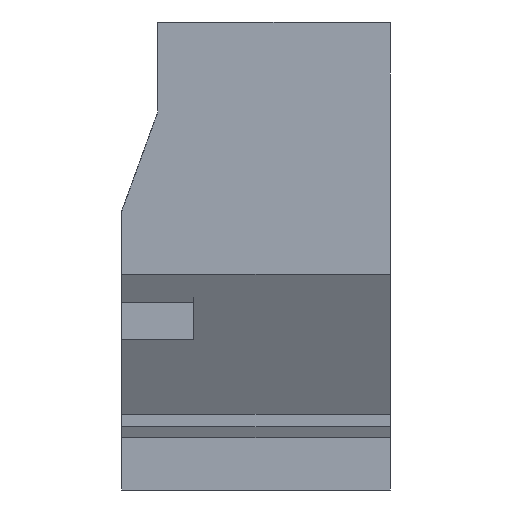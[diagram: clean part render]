
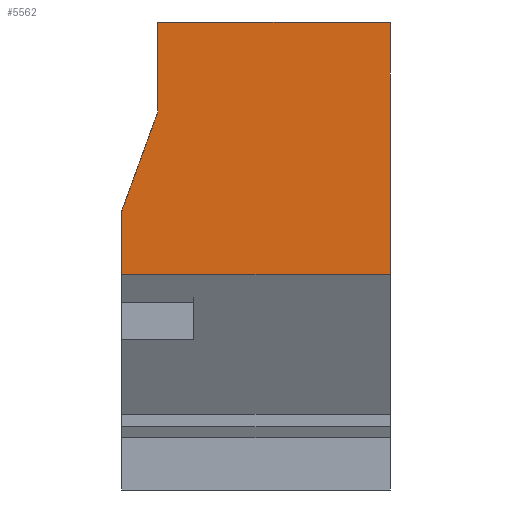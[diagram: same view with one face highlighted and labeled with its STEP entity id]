
A CAD part, front view. The second image highlights one B-rep face of the part: STEP entity #5562.
In plain terms, the highlighted planar face has unit normal (0, -1, 0).
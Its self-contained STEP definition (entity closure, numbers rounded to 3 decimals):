
#32 = PLANE('',#33);
#33 = AXIS2_PLACEMENT_3D('',#34,#35,#36);
#34 = CARTESIAN_POINT('',(15.,-190.,-0.1));
#35 = DIRECTION('',(1.,0.,-0.));
#36 = DIRECTION('',(0.,0.,1.));
#107 = VERTEX_POINT('',#108);
#108 = CARTESIAN_POINT('',(15.,-180.5,26.));
#121 = PLANE('',#122);
#122 = AXIS2_PLACEMENT_3D('',#123,#124,#125);
#123 = CARTESIAN_POINT('',(0.,-3.198,26.));
#124 = DIRECTION('',(0.,0.,1.));
#125 = DIRECTION('',(1.,0.,-0.));
#132 = EDGE_CURVE('',#133,#107,#135,.T.);
#133 = VERTEX_POINT('',#134);
#134 = CARTESIAN_POINT('',(15.,-180.5,12.));
#135 = SURFACE_CURVE('',#136,(#140,#146),.PCURVE_S1.);
#136 = LINE('',#137,#138);
#137 = CARTESIAN_POINT('',(15.,-180.5,5.95));
#138 = VECTOR('',#139,1.);
#139 = DIRECTION('',(0.,-0.,1.));
#140 = PCURVE('',#32,#141);
#141 = DEFINITIONAL_REPRESENTATION('',(#142),#145);
#142 = B_SPLINE_CURVE_WITH_KNOTS('',1,(#143,#144),.UNSPECIFIED.,.F.,.F.,
  (2,2),(6.05,20.05),.PIECEWISE_BEZIER_KNOTS.);
#143 = CARTESIAN_POINT('',(12.1,-9.5));
#144 = CARTESIAN_POINT('',(26.1,-9.5));
#145 = ( GEOMETRIC_REPRESENTATION_CONTEXT(2) 
PARAMETRIC_REPRESENTATION_CONTEXT() REPRESENTATION_CONTEXT('2D SPACE',''
  ) );
#146 = PCURVE('',#147,#152);
#147 = PLANE('',#148);
#148 = AXIS2_PLACEMENT_3D('',#149,#150,#151);
#149 = CARTESIAN_POINT('',(-196.5,-180.5,12.));
#150 = DIRECTION('',(0.,1.,0.));
#151 = DIRECTION('',(1.,0.,0.));
#152 = DEFINITIONAL_REPRESENTATION('',(#153),#156);
#153 = B_SPLINE_CURVE_WITH_KNOTS('',1,(#154,#155),.UNSPECIFIED.,.F.,.F.,
  (2,2),(6.05,20.05),.PIECEWISE_BEZIER_KNOTS.);
#154 = CARTESIAN_POINT('',(211.5,0.));
#155 = CARTESIAN_POINT('',(211.5,-14.));
#156 = ( GEOMETRIC_REPRESENTATION_CONTEXT(2) 
PARAMETRIC_REPRESENTATION_CONTEXT() REPRESENTATION_CONTEXT('2D SPACE',''
  ) );
#184 = B_SPLINE_SURFACE_WITH_KNOTS('',1,1,(
    (#185,#186)
    ,(#187,#188
    )),.UNSPECIFIED.,.F.,.F.,.F.,(2,2),(2,2),(0.,393.),(0.,1.),
  .PIECEWISE_BEZIER_KNOTS.);
#185 = CARTESIAN_POINT('',(-192.,-176.,4.2));
#186 = CARTESIAN_POINT('',(-196.5,-180.5,12.));
#187 = CARTESIAN_POINT('',(192.,-176.,4.2));
#188 = CARTESIAN_POINT('',(196.5,-180.5,12.));
#5424 = EDGE_CURVE('',#5425,#133,#5427,.T.);
#5425 = VERTEX_POINT('',#5426);
#5426 = CARTESIAN_POINT('',(0.1,-180.5,12.));
#5427 = SURFACE_CURVE('',#5428,(#5432,#5439),.PCURVE_S1.);
#5428 = LINE('',#5429,#5430);
#5429 = CARTESIAN_POINT('',(-196.5,-180.5,12.));
#5430 = VECTOR('',#5431,1.);
#5431 = DIRECTION('',(1.,0.,0.));
#5432 = PCURVE('',#184,#5433);
#5433 = DEFINITIONAL_REPRESENTATION('',(#5434),#5438);
#5434 = LINE('',#5435,#5436);
#5435 = CARTESIAN_POINT('',(0.,1.));
#5436 = VECTOR('',#5437,1.);
#5437 = DIRECTION('',(1.,0.));
#5438 = ( GEOMETRIC_REPRESENTATION_CONTEXT(2) 
PARAMETRIC_REPRESENTATION_CONTEXT() REPRESENTATION_CONTEXT('2D SPACE',''
  ) );
#5439 = PCURVE('',#147,#5440);
#5440 = DEFINITIONAL_REPRESENTATION('',(#5441),#5445);
#5441 = LINE('',#5442,#5443);
#5442 = CARTESIAN_POINT('',(0.,0.));
#5443 = VECTOR('',#5444,1.);
#5444 = DIRECTION('',(1.,0.));
#5445 = ( GEOMETRIC_REPRESENTATION_CONTEXT(2) 
PARAMETRIC_REPRESENTATION_CONTEXT() REPRESENTATION_CONTEXT('2D SPACE',''
  ) );
#5467 = PLANE('',#5468);
#5468 = AXIS2_PLACEMENT_3D('',#5469,#5470,#5471);
#5469 = CARTESIAN_POINT('',(0.1,-179.6,8.));
#5470 = DIRECTION('',(-1.,0.,0.));
#5471 = DIRECTION('',(0.,-1.,0.));
#5562 = ADVANCED_FACE('',(#5563),#147,.F.);
#5563 = FACE_BOUND('',#5564,.F.);
#5564 = EDGE_LOOP('',(#5565,#5593,#5619,#5640,#5641,#5642));
#5565 = ORIENTED_EDGE('',*,*,#5566,.T.);
#5566 = EDGE_CURVE('',#5567,#5569,#5571,.T.);
#5567 = VERTEX_POINT('',#5568);
#5568 = CARTESIAN_POINT('',(0.1,-180.5,15.5));
#5569 = VERTEX_POINT('',#5570);
#5570 = CARTESIAN_POINT('',(2.1,-180.5,21.));
#5571 = SURFACE_CURVE('',#5572,(#5576,#5582),.PCURVE_S1.);
#5572 = LINE('',#5573,#5574);
#5573 = CARTESIAN_POINT('',(-10.942,-180.5,-14.866));
#5574 = VECTOR('',#5575,1.);
#5575 = DIRECTION('',(0.342,-0.,0.94));
#5576 = PCURVE('',#147,#5577);
#5577 = DEFINITIONAL_REPRESENTATION('',(#5578),#5581);
#5578 = B_SPLINE_CURVE_WITH_KNOTS('',1,(#5579,#5580),.UNSPECIFIED.,.F.,
  .F.,(2,2),(32.312,38.164),.PIECEWISE_BEZIER_KNOTS.);
#5579 = CARTESIAN_POINT('',(196.6,-3.5));
#5580 = CARTESIAN_POINT('',(198.6,-9.));
#5581 = ( GEOMETRIC_REPRESENTATION_CONTEXT(2) 
PARAMETRIC_REPRESENTATION_CONTEXT() REPRESENTATION_CONTEXT('2D SPACE',''
  ) );
#5582 = PCURVE('',#5583,#5588);
#5583 = PLANE('',#5584);
#5584 = AXIS2_PLACEMENT_3D('',#5585,#5586,#5587);
#5585 = CARTESIAN_POINT('',(2.1,-179.6,21.));
#5586 = DIRECTION('',(-0.94,0.,0.342));
#5587 = DIRECTION('',(0.,-1.,0.));
#5588 = DEFINITIONAL_REPRESENTATION('',(#5589),#5592);
#5589 = B_SPLINE_CURVE_WITH_KNOTS('',1,(#5590,#5591),.UNSPECIFIED.,.F.,
  .F.,(2,2),(32.312,38.164),.PIECEWISE_BEZIER_KNOTS.);
#5590 = CARTESIAN_POINT('',(0.9,-5.852));
#5591 = CARTESIAN_POINT('',(0.9,0.));
#5592 = ( GEOMETRIC_REPRESENTATION_CONTEXT(2) 
PARAMETRIC_REPRESENTATION_CONTEXT() REPRESENTATION_CONTEXT('2D SPACE',''
  ) );
#5593 = ORIENTED_EDGE('',*,*,#5594,.T.);
#5594 = EDGE_CURVE('',#5569,#5595,#5597,.T.);
#5595 = VERTEX_POINT('',#5596);
#5596 = CARTESIAN_POINT('',(2.1,-180.5,26.));
#5597 = SURFACE_CURVE('',#5598,(#5602,#5608),.PCURVE_S1.);
#5598 = LINE('',#5599,#5600);
#5599 = CARTESIAN_POINT('',(2.1,-180.5,25.));
#5600 = VECTOR('',#5601,1.);
#5601 = DIRECTION('',(0.,-0.,1.));
#5602 = PCURVE('',#147,#5603);
#5603 = DEFINITIONAL_REPRESENTATION('',(#5604),#5607);
#5604 = B_SPLINE_CURVE_WITH_KNOTS('',1,(#5605,#5606),.UNSPECIFIED.,.F.,
  .F.,(2,2),(-4.,1.),.PIECEWISE_BEZIER_KNOTS.);
#5605 = CARTESIAN_POINT('',(198.6,-9.));
#5606 = CARTESIAN_POINT('',(198.6,-14.));
#5607 = ( GEOMETRIC_REPRESENTATION_CONTEXT(2) 
PARAMETRIC_REPRESENTATION_CONTEXT() REPRESENTATION_CONTEXT('2D SPACE',''
  ) );
#5608 = PCURVE('',#5609,#5614);
#5609 = PLANE('',#5610);
#5610 = AXIS2_PLACEMENT_3D('',#5611,#5612,#5613);
#5611 = CARTESIAN_POINT('',(2.1,-179.6,38.));
#5612 = DIRECTION('',(-1.,0.,0.));
#5613 = DIRECTION('',(0.,-1.,0.));
#5614 = DEFINITIONAL_REPRESENTATION('',(#5615),#5618);
#5615 = B_SPLINE_CURVE_WITH_KNOTS('',1,(#5616,#5617),.UNSPECIFIED.,.F.,
  .F.,(2,2),(-4.,1.),.PIECEWISE_BEZIER_KNOTS.);
#5616 = CARTESIAN_POINT('',(0.9,-17.));
#5617 = CARTESIAN_POINT('',(0.9,-12.));
#5618 = ( GEOMETRIC_REPRESENTATION_CONTEXT(2) 
PARAMETRIC_REPRESENTATION_CONTEXT() REPRESENTATION_CONTEXT('2D SPACE',''
  ) );
#5619 = ORIENTED_EDGE('',*,*,#5620,.T.);
#5620 = EDGE_CURVE('',#5595,#107,#5621,.T.);
#5621 = SURFACE_CURVE('',#5622,(#5626,#5633),.PCURVE_S1.);
#5622 = LINE('',#5623,#5624);
#5623 = CARTESIAN_POINT('',(-196.5,-180.5,26.));
#5624 = VECTOR('',#5625,1.);
#5625 = DIRECTION('',(1.,0.,0.));
#5626 = PCURVE('',#147,#5627);
#5627 = DEFINITIONAL_REPRESENTATION('',(#5628),#5632);
#5628 = LINE('',#5629,#5630);
#5629 = CARTESIAN_POINT('',(0.,-14.));
#5630 = VECTOR('',#5631,1.);
#5631 = DIRECTION('',(1.,0.));
#5632 = ( GEOMETRIC_REPRESENTATION_CONTEXT(2) 
PARAMETRIC_REPRESENTATION_CONTEXT() REPRESENTATION_CONTEXT('2D SPACE',''
  ) );
#5633 = PCURVE('',#121,#5634);
#5634 = DEFINITIONAL_REPRESENTATION('',(#5635),#5639);
#5635 = LINE('',#5636,#5637);
#5636 = CARTESIAN_POINT('',(-196.5,-177.302));
#5637 = VECTOR('',#5638,1.);
#5638 = DIRECTION('',(1.,0.));
#5639 = ( GEOMETRIC_REPRESENTATION_CONTEXT(2) 
PARAMETRIC_REPRESENTATION_CONTEXT() REPRESENTATION_CONTEXT('2D SPACE',''
  ) );
#5640 = ORIENTED_EDGE('',*,*,#132,.F.);
#5641 = ORIENTED_EDGE('',*,*,#5424,.F.);
#5642 = ORIENTED_EDGE('',*,*,#5643,.T.);
#5643 = EDGE_CURVE('',#5425,#5567,#5644,.T.);
#5644 = SURFACE_CURVE('',#5645,(#5649,#5655),.PCURVE_S1.);
#5645 = LINE('',#5646,#5647);
#5646 = CARTESIAN_POINT('',(0.1,-180.5,10.));
#5647 = VECTOR('',#5648,1.);
#5648 = DIRECTION('',(0.,-0.,1.));
#5649 = PCURVE('',#147,#5650);
#5650 = DEFINITIONAL_REPRESENTATION('',(#5651),#5654);
#5651 = B_SPLINE_CURVE_WITH_KNOTS('',1,(#5652,#5653),.UNSPECIFIED.,.F.,
  .F.,(2,2),(2.,5.5),.PIECEWISE_BEZIER_KNOTS.);
#5652 = CARTESIAN_POINT('',(196.6,0.));
#5653 = CARTESIAN_POINT('',(196.6,-3.5));
#5654 = ( GEOMETRIC_REPRESENTATION_CONTEXT(2) 
PARAMETRIC_REPRESENTATION_CONTEXT() REPRESENTATION_CONTEXT('2D SPACE',''
  ) );
#5655 = PCURVE('',#5467,#5656);
#5656 = DEFINITIONAL_REPRESENTATION('',(#5657),#5660);
#5657 = B_SPLINE_CURVE_WITH_KNOTS('',1,(#5658,#5659),.UNSPECIFIED.,.F.,
  .F.,(2,2),(2.,5.5),.PIECEWISE_BEZIER_KNOTS.);
#5658 = CARTESIAN_POINT('',(0.9,4.));
#5659 = CARTESIAN_POINT('',(0.9,7.5));
#5660 = ( GEOMETRIC_REPRESENTATION_CONTEXT(2) 
PARAMETRIC_REPRESENTATION_CONTEXT() REPRESENTATION_CONTEXT('2D SPACE',''
  ) );
